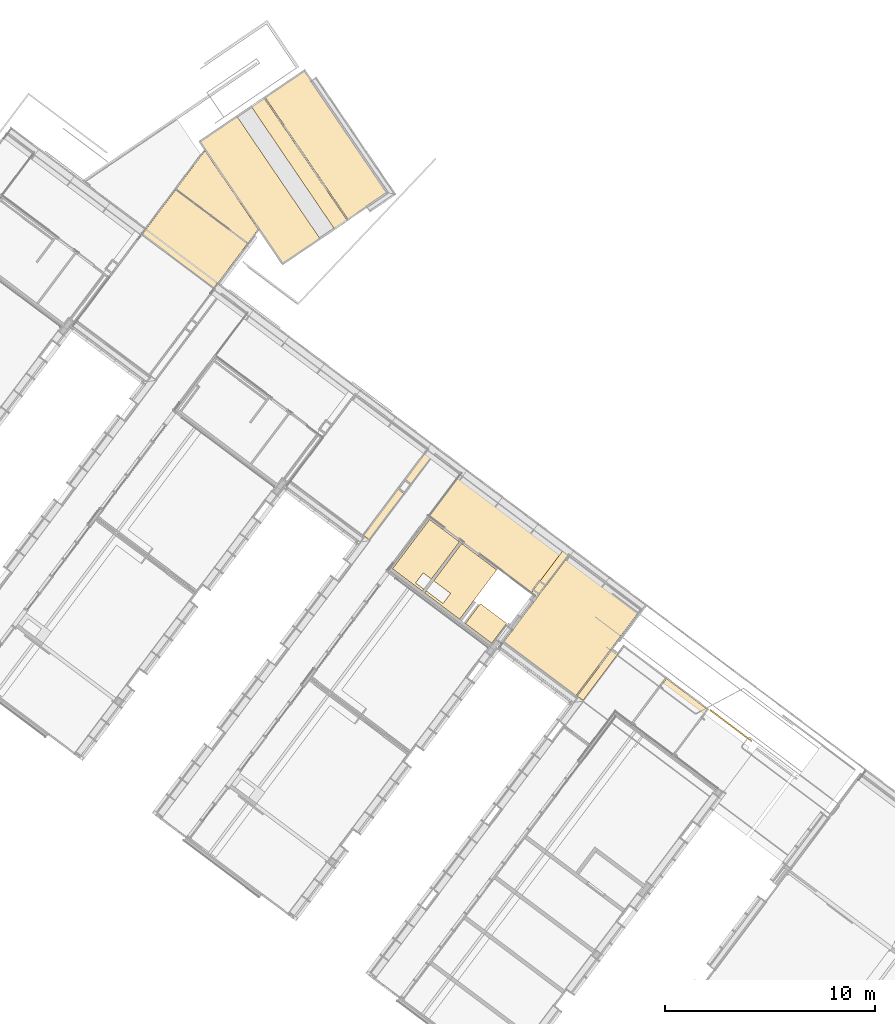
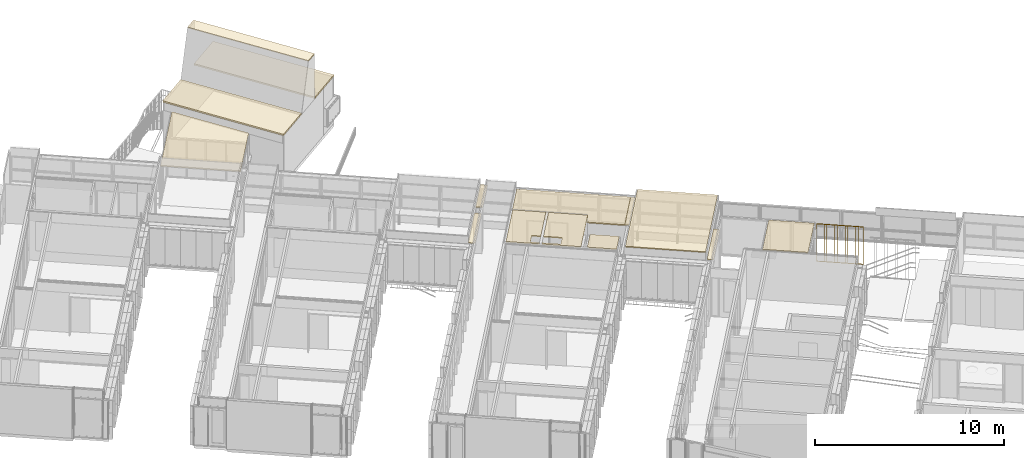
# One storey, part 220 of 243: 13 coverings, 1 railing.
"""IFC2X3 building model written with IfcOpenShell, lengths in metres."""

from ifc_helpers import new_model, entity, si_unit, converted_unit, derived_unit, direction, frame, frame_2d, origin, place, context, subcontext, project, spatial, polyline, rectangle, outline, extrude, material, layer, layer_set, layer_usage, type_object, element, save


model = new_model("IFC2X3")

# Units and contexts
model_context = context("Model", 3, precision=1e-05, world=origin(), true_north=direction((6.123031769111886e-17, 1.0)))
body_context = subcontext(model_context, "Body", "Model", "MODEL_VIEW")
ifc_project = project(units=[si_unit("LENGTHUNIT", "METRE"), si_unit("AREAUNIT", "SQUARE_METRE"), si_unit("VOLUMEUNIT", "CUBIC_METRE"), converted_unit("PLANEANGLEUNIT", "DEGREE", entity("IfcRatioMeasure", 0.017453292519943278), si_unit("PLANEANGLEUNIT", "RADIAN"), dimensions=[0, 0, 0, 0, 0, 0, 0]), si_unit("MASSUNIT", "GRAM", prefix="KILO"), derived_unit("MASSDENSITYUNIT", [(si_unit("MASSUNIT", "GRAM", prefix="KILO"), 1), (si_unit("LENGTHUNIT", "METRE"), -3)]), derived_unit("IONCONCENTRATIONUNIT", [(si_unit("MASSUNIT", "GRAM", prefix="KILO"), 1), (si_unit("LENGTHUNIT", "METRE"), -3)]), derived_unit("MOMENTOFINERTIAUNIT", [(si_unit("LENGTHUNIT", "METRE"), 4)]), si_unit("TIMEUNIT", "SECOND"), si_unit("FREQUENCYUNIT", "HERTZ"), si_unit("THERMODYNAMICTEMPERATUREUNIT", "DEGREE_CELSIUS"), derived_unit("THERMALTRANSMITTANCEUNIT", [(si_unit("MASSUNIT", "GRAM", prefix="KILO"), 1), (si_unit("THERMODYNAMICTEMPERATUREUNIT", "KELVIN"), -1), (si_unit("TIMEUNIT", "SECOND"), -3)]), derived_unit("THERMALCONDUCTANCEUNIT", [(si_unit("MASSUNIT", "GRAM", prefix="KILO"), 1), (si_unit("THERMODYNAMICTEMPERATUREUNIT", "KELVIN"), -1), (si_unit("TIMEUNIT", "SECOND"), -3), (si_unit("LENGTHUNIT", "METRE"), 1)]), derived_unit("VOLUMETRICFLOWRATEUNIT", [(si_unit("LENGTHUNIT", "METRE"), 3), (si_unit("TIMEUNIT", "SECOND"), -1)]), derived_unit("MASSFLOWRATEUNIT", [(si_unit("MASSUNIT", "GRAM", prefix="KILO"), 1), (si_unit("TIMEUNIT", "SECOND"), -1)]), derived_unit("ROTATIONALFREQUENCYUNIT", [(si_unit("TIMEUNIT", "SECOND"), -1)]), si_unit("ELECTRICCURRENTUNIT", "AMPERE"), si_unit("ELECTRICVOLTAGEUNIT", "VOLT"), si_unit("POWERUNIT", "WATT"), si_unit("FORCEUNIT", "NEWTON", prefix="KILO"), si_unit("ILLUMINANCEUNIT", "LUX"), si_unit("LUMINOUSFLUXUNIT", "LUMEN"), si_unit("LUMINOUSINTENSITYUNIT", "CANDELA"), derived_unit("USERDEFINED", [(si_unit("MASSUNIT", "GRAM", prefix="KILO"), -1), (si_unit("LENGTHUNIT", "METRE"), -2), (si_unit("TIMEUNIT", "SECOND"), 3), (si_unit("LUMINOUSFLUXUNIT", "LUMEN"), 1)]), derived_unit("USERDEFINED", [(si_unit("MASSUNIT", "GRAM", prefix="KILO"), 1), (si_unit("TIMEUNIT", "SECOND"), -3), (si_unit("LENGTHUNIT", "METRE"), 3), (si_unit("ELECTRICCURRENTUNIT", "AMPERE"), -2)]), derived_unit("SOUNDPOWERUNIT", [(si_unit("MASSUNIT", "GRAM", prefix="KILO"), 1), (si_unit("TIMEUNIT", "SECOND"), -3), (si_unit("LENGTHUNIT", "METRE"), 2)]), derived_unit("SOUNDPRESSUREUNIT", [(si_unit("MASSUNIT", "GRAM", prefix="KILO"), 1), (si_unit("LENGTHUNIT", "METRE"), -1), (si_unit("TIMEUNIT", "SECOND"), -2)]), derived_unit("LINEARVELOCITYUNIT", [(si_unit("LENGTHUNIT", "METRE"), 1), (si_unit("TIMEUNIT", "SECOND"), -1)]), si_unit("PRESSUREUNIT", "PASCAL"), derived_unit("USERDEFINED", [(si_unit("MASSUNIT", "GRAM", prefix="KILO"), 1), (si_unit("LENGTHUNIT", "METRE"), -2), (si_unit("TIMEUNIT", "SECOND"), -2)]), derived_unit("LINEARFORCEUNIT", [(si_unit("MASSUNIT", "GRAM", prefix="KILO"), 1), (si_unit("TIMEUNIT", "SECOND"), -2)]), derived_unit("PLANARFORCEUNIT", [(si_unit("MASSUNIT", "GRAM", prefix="KILO"), 1), (si_unit("LENGTHUNIT", "METRE"), -1), (si_unit("TIMEUNIT", "SECOND"), -2)]), derived_unit("SPECIFICHEATCAPACITYUNIT", [(si_unit("THERMODYNAMICTEMPERATUREUNIT", "KELVIN"), -1), (si_unit("LENGTHUNIT", "METRE"), 2), (si_unit("TIMEUNIT", "SECOND"), -2)]), derived_unit("HEATINGVALUEUNIT", [(si_unit("LENGTHUNIT", "METRE"), 2), (si_unit("TIMEUNIT", "SECOND"), -2)]), derived_unit("VAPORPERMEABILITYUNIT", [(si_unit("LENGTHUNIT", "METRE"), -1), (si_unit("TIMEUNIT", "SECOND"), 1)]), derived_unit("DYNAMICVISCOSITYUNIT", [(si_unit("MASSUNIT", "GRAM", prefix="KILO"), 1), (si_unit("TIMEUNIT", "SECOND"), -1), (si_unit("LENGTHUNIT", "METRE"), -1)]), derived_unit("THERMALEXPANSIONCOEFFICIENTUNIT", [(si_unit("THERMODYNAMICTEMPERATUREUNIT", "KELVIN"), -1)]), derived_unit("MODULUSOFELASTICITYUNIT", [(si_unit("MASSUNIT", "GRAM", prefix="KILO"), 1), (si_unit("LENGTHUNIT", "METRE"), -1), (si_unit("TIMEUNIT", "SECOND"), -2)]), derived_unit("ISOTHERMALMOISTURECAPACITYUNIT", [(si_unit("LENGTHUNIT", "METRE"), 3), (si_unit("MASSUNIT", "GRAM", prefix="KILO"), -1)]), derived_unit("MOISTUREDIFFUSIVITYUNIT", [(si_unit("TIMEUNIT", "SECOND"), -1), (si_unit("LENGTHUNIT", "METRE"), 2)])], contexts=[model_context])

# Site, building, storey
site_placement = place(None, frame((0.0, 0.0, 235.0), z_axis=(0.0, 0.0, 1.0), x_axis=(-0.7996477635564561, 0.6004693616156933, 0.0)))
site = spatial("IfcSite", under=ifc_project, at=site_placement, Name="Default", CompositionType="ELEMENT")
building_placement = place(site_placement, origin())
building = spatial("IfcBuilding", under=site, at=building_placement, CompositionType="ELEMENT")
storey_placement = place(building_placement, origin())
storey = spatial("IfcBuildingStorey", under=building, at=storey_placement, Name="P0- Escola", CompositionType="ELEMENT", Elevation=0.0)

# Coverings
ifc_material_1 = material(Name="_Aillament")
ifc_layer_1 = layer(ifc_material_1, 0.05)
ifc_material_2 = material(Name="_PYL- SOS")
ifc_layer_2 = layer(ifc_material_2, 0.015)
ifc_layer_set_1 = layer_set([ifc_layer_1, ifc_layer_2], Name="Techo compuesto:SOS- Guix Laminat- Aillament- 6,5 cm")
ifc_layer_usage_1 = layer_usage(ifc_layer_set_1, "AXIS3", "POSITIVE", 0.0)
covering_type_1 = type_object("IfcCoveringType", Name="Techo compuesto:SOS- Guix Laminat- Aillament- 6,5 cm", PredefinedType="CEILING")
covering_1_placement = place(storey_placement, frame((45.53514768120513, -39.37318994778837, 3.0850000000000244)))
element("IfcCovering", 1, at=covering_1_placement, inside=storey, type_object=covering_type_1, material=ifc_layer_usage_1, Name="Techo compuesto:SOS- Guix Laminat- Aillament- 6,5 cm", ObjectType="Techo compuesto:SOS- Guix Laminat- Aillament- 6,5 cm", PredefinedType="CEILING", context=body_context, shape_type="SweptSolid", body=[
    extrude(outline(polyline([(-0.9447499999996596, -0.5639999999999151), (-0.8227500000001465, -0.5639999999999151), (-0.8227500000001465, -0.07800000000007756), (-0.22275000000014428, -0.07800000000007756), (-0.22275000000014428, -0.5639999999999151), (1.990249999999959, -0.5639999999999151), (1.990249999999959, 1.2059999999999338), (-0.9447499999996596, 1.2059999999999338), (-0.9447499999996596, -0.5639999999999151)])), frame((0.5639999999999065, 1.990249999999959, 0.0), z_axis=(0.0, 0.0, 1.0), x_axis=(0.0, -1.0, 0.0)), (0.0, 0.0, 1.0), 0.06499999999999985),
])
covering_2_placement = place(storey_placement, frame((43.31014768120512, -39.37318994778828, 3.0850000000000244)))
element("IfcCovering", 2, at=covering_2_placement, inside=storey, type_object=covering_type_1, material=ifc_layer_usage_1, Name="Techo compuesto:SOS- Guix Laminat- Aillament- 6,5 cm", ObjectType="Techo compuesto:SOS- Guix Laminat- Aillament- 6,5 cm", PredefinedType="CEILING", context=body_context, shape_type="SweptSolid", body=[
    extrude(outline(polyline([(-1.3137499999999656, -1.9902499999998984), (0.7712500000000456, -1.9902499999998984), (0.7712500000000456, 0.2227500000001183), (-0.22875000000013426, 0.2227500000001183), (-0.22875000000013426, 0.8227500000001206), (0.7712500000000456, 0.8227500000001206), (0.7712500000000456, 0.9447499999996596), (-1.3137499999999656, 0.9447499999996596), (-1.3137499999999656, -1.9902499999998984)])), frame((1.3137499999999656, 1.9902499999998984, 0.0)), (0.0, 0.0, 1.0), 0.06499999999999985),
])
covering_3_placement = place(storey_placement, frame((41.345147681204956, -42.04019175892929, 2.5649999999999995)))
element("IfcCovering", 3, at=covering_3_placement, inside=storey, type_object=covering_type_1, material=ifc_layer_usage_1, Name="Techo compuesto:SOS- Guix Laminat- Aillament- 6,5 cm", ObjectType="Techo compuesto:SOS- Guix Laminat- Aillament- 6,5 cm", PredefinedType="CEILING", context=body_context, shape_type="SweptSolid", body=[
    extrude(rectangle(XDim=2.577001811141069, YDim=6.064999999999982, at=frame_2d((-0.2507001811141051, -0.6064999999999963), x_axis=(1.0, 0.0))), frame((2.4259999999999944, 1.5392010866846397, 0.0), z_axis=(0.0, 0.0, 1.0), x_axis=(0.0, 1.0, 0.0)), (0.0, 0.0, 1.0), 0.06499999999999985),
])
covering_4_placement = place(storey_placement, frame((36.71014768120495, -42.040191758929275, 3.0850000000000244)))
element("IfcCovering", 4, at=covering_4_placement, inside=storey, type_object=covering_type_1, material=ifc_layer_usage_1, Name="Techo compuesto:SOS- Guix Laminat- Aillament- 6,5 cm", ObjectType="Techo compuesto:SOS- Guix Laminat- Aillament- 6,5 cm", PredefinedType="CEILING", context=body_context, shape_type="SweptSolid", body=[
    extrude(rectangle(XDim=5.274999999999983, YDim=4.269999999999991, at=frame_2d((2.220446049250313e-15, -4.440892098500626e-15), x_axis=(1.0, 0.0))), frame((2.135, 2.637500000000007, 0.0), z_axis=(0.0, 0.0, 1.0), x_axis=(0.0, -1.0, 0.0)), (0.0, 0.0, 1.0), 0.06499999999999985),
])
covering_5_placement = place(storey_placement, frame((31.321147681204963, -40.080191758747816, 3.0849999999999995)))
element("IfcCovering", 5, at=covering_5_placement, inside=storey, type_object=covering_type_1, material=ifc_layer_usage_1, Name="Techo compuesto:SOS- Guix Laminat- Aillament- 6,5 cm", ObjectType="Techo compuesto:SOS- Guix Laminat- Aillament- 6,5 cm", PredefinedType="CEILING", context=body_context, shape_type="SweptSolid", body=[
    extrude(rectangle(XDim=2.723999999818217, YDim=2.428000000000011, at=frame_2d((-2.220446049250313e-15, 0.0), x_axis=(1.0, 0.0))), frame((1.2140000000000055, 1.3619999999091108, 0.0), z_axis=(0.0, 0.0, 1.0), x_axis=(0.0, 1.0, 0.0)), (0.0, 0.0, 1.0), 0.06499999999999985),
])
covering_6_placement = place(storey_placement, frame((58.957543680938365, -50.68481053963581, 5.935000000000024)))
element("IfcCovering", 6, at=covering_6_placement, inside=storey, type_object=covering_type_1, material=ifc_layer_usage_1, Name="Techo compuesto:SOS- Guix Laminat- Aillament- 6,5 cm", ObjectType="Techo compuesto:SOS- Guix Laminat- Aillament- 6,5 cm", PredefinedType="CEILING", context=body_context, shape_type="SweptSolid", body=[
    extrude(rectangle(XDim=0.7290000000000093, YDim=7.100000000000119, at=frame_2d((-6.9111383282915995e-15, 6.661338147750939e-15), x_axis=(1.0, 0.0))), frame((3.476468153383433, 1.4955706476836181, 0.0), z_axis=(0.0, 0.0, 1.0), x_axis=(-0.32415556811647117, -0.9460037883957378, 0.0)), (0.0, 0.0, 1.0), 0.06500000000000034),
])
covering_7_placement = place(storey_placement, frame((62.11048814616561, -46.97784523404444, 2.5350000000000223)))
element("IfcCovering", 7, at=covering_7_placement, inside=storey, type_object=covering_type_1, material=ifc_layer_usage_1, Name="Techo compuesto:SOS- Guix Laminat- Aillament- 6,5 cm", ObjectType="Techo compuesto:SOS- Guix Laminat- Aillament- 6,5 cm", PredefinedType="CEILING", context=body_context, shape_type="SweptSolid", body=[
    extrude(outline(polyline([(-2.1257403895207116, -2.1338277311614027), (1.3945676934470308, -2.1338277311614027), (2.8569130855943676, 2.1338277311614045), (-2.1257403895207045, 2.133827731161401), (-2.1257403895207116, -2.1338277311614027)])), frame((2.1338277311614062, 2.856913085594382, 0.0), z_axis=(0.0, 0.0, 1.0), x_axis=(0.0, -1.0, 0.0)), (0.0, 0.0, 1.0), 0.06499999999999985),
])
covering_8_placement = place(storey_placement, frame((41.410147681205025, -37.62318813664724, 3.0850000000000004)))
element("IfcCovering", 8, at=covering_8_placement, inside=storey, type_object=covering_type_1, material=ifc_layer_usage_1, Name="Techo compuesto:SOS- Guix Laminat- Aillament- 6,5 cm", ObjectType="Techo compuesto:SOS- Guix Laminat- Aillament- 6,5 cm", PredefinedType="CEILING", context=body_context, shape_type="SweptSolid", body=[
    extrude(rectangle(XDim=1.1849981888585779, YDim=1.5600000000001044, at=frame_2d((0.0, -4.3298697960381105e-15), x_axis=(1.0, 0.0))), frame((0.7800000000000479, 0.5924990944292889, 0.0), z_axis=(0.0, 0.0, 1.0), x_axis=(0.0, 1.0, 0.0)), (0.0, 0.0, 1.0), 0.06499999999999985),
])
ifc_layer_3 = layer(ifc_material_1, 0.02)
ifc_layer_4 = layer(ifc_material_2, 0.015)
ifc_layer_set_2 = layer_set([ifc_layer_3, ifc_layer_4], Name="Techo compuesto:SOS- Guix Laminat- Aillament- 3,5 cm")
ifc_layer_usage_2 = layer_usage(ifc_layer_set_2, "AXIS3", "POSITIVE", 0.0)
covering_type_2 = type_object("IfcCoveringType", Name="Techo compuesto:SOS- Guix Laminat- Aillament- 3,5 cm", PredefinedType="CEILING")
covering_9_placement = place(storey_placement, frame((41.00014768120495, -42.04019175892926, 2.5649999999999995)))
element("IfcCovering", 9, at=covering_9_placement, inside=storey, type_object=covering_type_2, material=ifc_layer_usage_2, Name="Techo compuesto:SOS- Guix Laminat- Aillament- 3,5 cm", ObjectType="Techo compuesto:SOS- Guix Laminat- Aillament- 3,5 cm", PredefinedType="CEILING", context=body_context, shape_type="SweptSolid", body=[
    extrude(rectangle(XDim=0.3450000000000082, YDim=2.542001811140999, at=frame_2d((0.025499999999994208, -0.2542001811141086), x_axis=(1.0, 0.0))), frame((0.1470000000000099, 1.5252010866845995, 0.0)), (0.0, 0.0, 1.0), 0.03500000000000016),
])
covering_10_placement = place(storey_placement, frame((36.30014768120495, -39.69019175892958, 2.5649999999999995)))
element("IfcCovering", 10, at=covering_10_placement, inside=storey, type_object=covering_type_2, material=ifc_layer_usage_2, Name="Techo compuesto:SOS- Guix Laminat- Aillament- 3,5 cm", ObjectType="Techo compuesto:SOS- Guix Laminat- Aillament- 3,5 cm", PredefinedType="CEILING", context=body_context, shape_type="SweptSolid", body=[
    extrude(rectangle(XDim=0.3450000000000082, YDim=2.810001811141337, at=frame_2d((0.04250000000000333, -4.3298697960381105e-15), x_axis=(1.0, 0.0))), frame((0.13000000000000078, 1.4050009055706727, 0.0)), (0.0, 0.0, 1.0), 0.03500000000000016),
])
covering_11_placement = place(storey_placement, frame((49.00014768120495, -42.27219170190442, 2.5649999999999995)))
element("IfcCovering", 11, at=covering_11_placement, inside=storey, type_object=covering_type_2, material=ifc_layer_usage_2, Name="Techo compuesto:SOS- Guix Laminat- Aillament- 3,5 cm", ObjectType="Techo compuesto:SOS- Guix Laminat- Aillament- 3,5 cm", PredefinedType="CEILING", context=body_context, shape_type="SweptSolid", body=[
    extrude(rectangle(XDim=0.3899918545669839, YDim=2.0669999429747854, at=frame_2d((0.0, -0.05799998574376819), x_axis=(1.0, 0.0))), frame((0.19499592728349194, 1.091499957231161, 0.0)), (0.0, 0.0, 1.0), 0.03500000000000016),
    extrude(rectangle(XDim=2.744998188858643, YDim=0.38999185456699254, at=frame_2d((-2.220446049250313e-15, -4.3298697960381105e-15), x_axis=(1.0, 0.0))), frame((0.1949959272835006, 4.019502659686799, 0.0), z_axis=(0.0, 0.0, 1.0), x_axis=(0.0, -1.0, 0.0)), (0.0, 0.0, 1.0), 0.03500000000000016),
])
ifc_layer_5 = layer(ifc_material_1, 0.085)
ifc_layer_6 = layer(ifc_material_2, 0.015)
ifc_layer_set_3 = layer_set([ifc_layer_5, ifc_layer_6], Name="Techo compuesto:SOS- Guix Laminat- Aillament- 10 cm")
ifc_layer_usage_3 = layer_usage(ifc_layer_set_3, "AXIS3", "POSITIVE", 0.0)
covering_type_3 = type_object("IfcCoveringType", Name="Techo compuesto:SOS- Guix Laminat- Aillament- 10 cm", PredefinedType="CEILING")
covering_12_placement = place(storey_placement, frame((58.190915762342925, -52.92210949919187, 3.0399999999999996)))
element("IfcCovering", 12, at=covering_12_placement, inside=storey, type_object=covering_type_3, material=ifc_layer_usage_3, Name="Techo compuesto:SOS- Guix Laminat- Aillament- 10 cm", ObjectType="Techo compuesto:SOS- Guix Laminat- Aillament- 10 cm", PredefinedType="CEILING", context=body_context, shape_type="SweptSolid", body=[
    extrude(rectangle(XDim=7.100000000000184, YDim=2.3000000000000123, at=frame_2d((1.3988810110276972e-14, 1.1102230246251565e-16), x_axis=(1.0, 0.0))), frame((3.7310923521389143, 2.2386566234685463, 0.0), z_axis=(0.0, 0.0, 1.0), x_axis=(-0.946003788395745, 0.32415556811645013, 0.0)), (0.0, 0.0, 1.0), 0.1),
])
covering_13_placement = place(storey_placement, frame((59.46160558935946, -49.21377464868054, 3.0399999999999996)))
element("IfcCovering", 13, at=covering_13_placement, inside=storey, type_object=covering_type_3, material=ifc_layer_usage_3, Name="Techo compuesto:SOS- Guix Laminat- Aillament- 10 cm", ObjectType="Techo compuesto:SOS- Guix Laminat- Aillament- 10 cm", PredefinedType="CEILING", context=body_context, shape_type="SweptSolid", body=[
    extrude(rectangle(XDim=7.100000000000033, YDim=2.1800000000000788, at=frame_2d((-4.440892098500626e-15, -1.3322676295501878e-15), x_axis=(1.0, 0.0))), frame((3.71164301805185, 2.1818963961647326, 0.0), z_axis=(0.0, 0.0, 1.0), x_axis=(-0.9460037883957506, 0.3241555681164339, 0.0)), (0.0, 0.0, 1.0), 0.1),
])

# Railing
ifc_material_3 = material(Name="<Unnamed>")
railing_placement = place(storey_placement, frame((28.715147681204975, -40.17519175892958, 0.6599999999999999)))
element("IfcRailing", 14, at=railing_placement, inside=storey, material=ifc_material_3, Name="Barandilla:BaranaAlta_02", ObjectType="Barandilla:BaranaAlta_02", PredefinedType="NOTDEFINED", context=body_context, shape_type="SweptSolid", body=[
    extrude(rectangle(XDim=0.0499999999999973, YDim=0.010000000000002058, at=frame_2d((4.3298697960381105e-15, -2.1658022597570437e-15), x_axis=(1.0, 0.0))), frame((2.367497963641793, 0.0350000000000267, 0.009999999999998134), z_axis=(0.0, 0.0, 1.0), x_axis=(0.0, -1.0, 0.0)), (0.0, 0.0, 1.0), 2.3999999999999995),
    extrude(rectangle(XDim=0.0499999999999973, YDim=0.010000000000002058, at=frame_2d((4.3298697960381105e-15, -2.1658022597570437e-15), x_axis=(1.0, 0.0))), frame((2.2274979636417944, 0.0350000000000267, 0.009999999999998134), z_axis=(0.0, 0.0, 1.0), x_axis=(0.0, -1.0, 0.0)), (0.0, 0.0, 1.0), 2.3999999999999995),
    extrude(rectangle(XDim=0.0499999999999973, YDim=0.010000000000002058, at=frame_2d((4.3298697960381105e-15, 2.1658022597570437e-15), x_axis=(1.0, 0.0))), frame((2.0874979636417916, 0.0350000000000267, 0.009999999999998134), z_axis=(0.0, 0.0, 1.0), x_axis=(0.0, -1.0, 0.0)), (0.0, 0.0, 1.0), 2.3999999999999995),
    extrude(rectangle(XDim=0.0499999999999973, YDim=0.010000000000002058, at=frame_2d((4.3298697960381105e-15, 2.1658022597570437e-15), x_axis=(1.0, 0.0))), frame((1.9474979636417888, 0.0350000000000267, 0.009999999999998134), z_axis=(0.0, 0.0, 1.0), x_axis=(0.0, -1.0, 0.0)), (0.0, 0.0, 1.0), 2.3999999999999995),
    extrude(rectangle(XDim=0.0499999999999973, YDim=0.010000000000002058, at=frame_2d((4.3298697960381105e-15, 2.1658022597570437e-15), x_axis=(1.0, 0.0))), frame((1.8074979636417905, 0.0350000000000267, 0.009999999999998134), z_axis=(0.0, 0.0, 1.0), x_axis=(0.0, -1.0, 0.0)), (0.0, 0.0, 1.0), 2.3999999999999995),
    extrude(rectangle(XDim=0.0499999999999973, YDim=0.010000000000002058, at=frame_2d((4.3298697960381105e-15, -2.1658022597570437e-15), x_axis=(1.0, 0.0))), frame((1.6674979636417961, 0.0350000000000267, 0.009999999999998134), z_axis=(0.0, 0.0, 1.0), x_axis=(0.0, -1.0, 0.0)), (0.0, 0.0, 1.0), 2.3999999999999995),
    extrude(rectangle(XDim=0.0499999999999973, YDim=0.010000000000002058, at=frame_2d((4.3298697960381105e-15, -2.1658022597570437e-15), x_axis=(1.0, 0.0))), frame((1.5274979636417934, 0.0350000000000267, 0.009999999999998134), z_axis=(0.0, 0.0, 1.0), x_axis=(0.0, -1.0, 0.0)), (0.0, 0.0, 1.0), 2.3999999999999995),
    extrude(rectangle(XDim=0.0499999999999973, YDim=0.010000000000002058, at=frame_2d((4.3298697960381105e-15, -2.1658022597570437e-15), x_axis=(1.0, 0.0))), frame((1.387497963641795, 0.0350000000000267, 0.009999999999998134), z_axis=(0.0, 0.0, 1.0), x_axis=(0.0, -1.0, 0.0)), (0.0, 0.0, 1.0), 2.3999999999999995),
    extrude(rectangle(XDim=0.0499999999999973, YDim=0.010000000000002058, at=frame_2d((4.3298697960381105e-15, -2.1658022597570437e-15), x_axis=(1.0, 0.0))), frame((1.247497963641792, 0.0350000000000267, 0.009999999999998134), z_axis=(0.0, 0.0, 1.0), x_axis=(0.0, -1.0, 0.0)), (0.0, 0.0, 1.0), 2.3999999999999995),
    extrude(rectangle(XDim=0.0499999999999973, YDim=0.010000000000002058, at=frame_2d((-4.3298697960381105e-15, -2.1658022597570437e-15), x_axis=(1.0, 0.0))), frame((1.1074979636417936, 0.0350000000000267, 0.009999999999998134), z_axis=(0.0, 0.0, 1.0), x_axis=(0.0, -1.0, 0.0)), (0.0, 0.0, 1.0), 2.3999999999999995),
    extrude(rectangle(XDim=0.0499999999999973, YDim=0.010000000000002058, at=frame_2d((-4.3298697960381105e-15, 2.1658022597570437e-15), x_axis=(1.0, 0.0))), frame((0.9674979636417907, 0.0350000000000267, 0.009999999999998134), z_axis=(0.0, 0.0, 1.0), x_axis=(0.0, -1.0, 0.0)), (0.0, 0.0, 1.0), 2.3999999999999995),
    extrude(rectangle(XDim=0.0499999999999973, YDim=0.010000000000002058, at=frame_2d((-4.3298697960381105e-15, 2.1658022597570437e-15), x_axis=(1.0, 0.0))), frame((0.827497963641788, 0.0350000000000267, 0.009999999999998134), z_axis=(0.0, 0.0, 1.0), x_axis=(0.0, -1.0, 0.0)), (0.0, 0.0, 1.0), 2.3999999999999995),
    extrude(rectangle(XDim=0.0499999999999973, YDim=0.010000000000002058, at=frame_2d((-4.3298697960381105e-15, -2.1658022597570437e-15), x_axis=(1.0, 0.0))), frame((0.6874979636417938, 0.0350000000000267, 0.009999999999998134), z_axis=(0.0, 0.0, 1.0), x_axis=(0.0, -1.0, 0.0)), (0.0, 0.0, 1.0), 2.3999999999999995),
    extrude(rectangle(XDim=0.0499999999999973, YDim=0.010000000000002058, at=frame_2d((-4.3298697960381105e-15, -2.1658022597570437e-15), x_axis=(1.0, 0.0))), frame((0.5474979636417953, 0.0350000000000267, 0.009999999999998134), z_axis=(0.0, 0.0, 1.0), x_axis=(0.0, -1.0, 0.0)), (0.0, 0.0, 1.0), 2.3999999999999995),
    extrude(rectangle(XDim=0.0499999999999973, YDim=0.010000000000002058, at=frame_2d((-4.3298697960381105e-15, -2.1658022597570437e-15), x_axis=(1.0, 0.0))), frame((0.40749796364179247, 0.0350000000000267, 0.009999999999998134), z_axis=(0.0, 0.0, 1.0), x_axis=(0.0, -1.0, 0.0)), (0.0, 0.0, 1.0), 2.3999999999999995),
    extrude(rectangle(XDim=0.0499999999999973, YDim=0.010000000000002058, at=frame_2d((-4.3298697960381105e-15, 2.1658022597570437e-15), x_axis=(1.0, 0.0))), frame((0.2674979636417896, 0.0350000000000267, 0.009999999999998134), z_axis=(0.0, 0.0, 1.0), x_axis=(0.0, -1.0, 0.0)), (0.0, 0.0, 1.0), 2.3999999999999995),
    extrude(rectangle(XDim=0.0499999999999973, YDim=0.010000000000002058, at=frame_2d((-4.3298697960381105e-15, 2.1658022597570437e-15), x_axis=(1.0, 0.0))), frame((0.12749796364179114, 0.0350000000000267, 0.009999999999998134), z_axis=(0.0, 0.0, 1.0), x_axis=(0.0, -1.0, 0.0)), (0.0, 0.0, 1.0), 2.3999999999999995),
    extrude(rectangle(XDim=0.07000000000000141, YDim=0.010000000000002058, at=frame_2d((0.0, 2.1658022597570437e-15), x_axis=(1.0, 0.0))), frame((2.489995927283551, 0.03500000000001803, 0.009999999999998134), z_axis=(0.0, 0.0, 1.0), x_axis=(0.0, -1.0, 0.0)), (0.0, 0.0, 1.0), 2.3999999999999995),
    extrude(rectangle(XDim=0.07000000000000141, YDim=0.010000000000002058, at=frame_2d((0.0, -2.1658022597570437e-15), x_axis=(1.0, 0.0))), frame((0.005000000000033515, 0.0350000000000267, 0.009999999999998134), z_axis=(0.0, 0.0, 1.0), x_axis=(0.0, -1.0, 0.0)), (0.0, 0.0, 1.0), 2.3999999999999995),
    extrude(rectangle(XDim=2.4849959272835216, YDim=0.07000000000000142, at=frame_2d((2.1094237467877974e-15, -4.333339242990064e-15), x_axis=(1.0, 0.0))), frame((1.2424979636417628, 0.03500000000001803, 2.41)), (0.0, 0.0, 1.0), 0.009999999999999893),
    extrude(rectangle(XDim=2.4849959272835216, YDim=0.07000000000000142, at=frame_2d((2.1094237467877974e-15, -4.333339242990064e-15), x_axis=(1.0, 0.0))), frame((1.2424979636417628, 0.03500000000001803, 0.0)), (0.0, 0.0, 1.0), 0.010000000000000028),
])

save(model, "model.ifc")
